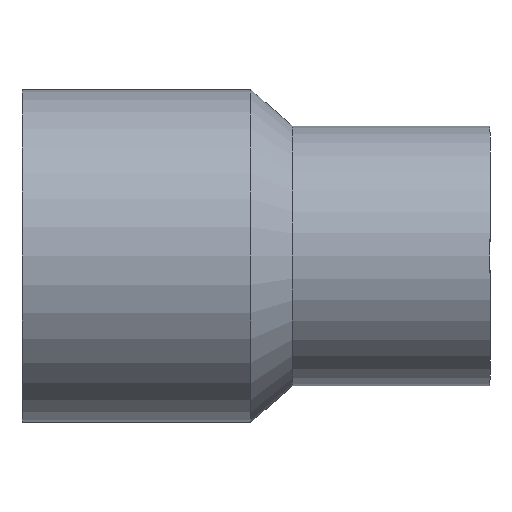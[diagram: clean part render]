
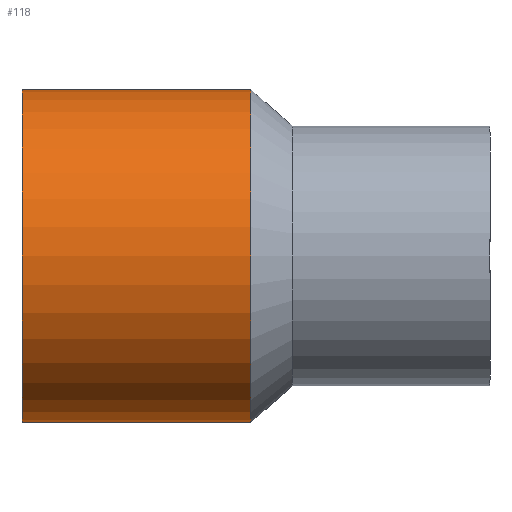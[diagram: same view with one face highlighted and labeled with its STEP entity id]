
A CAD part, front view. The second image highlights one B-rep face of the part: STEP entity #118.
In plain terms, the highlighted cylindrical face has radius 16 mm (diameter 32 mm), a full revolution.
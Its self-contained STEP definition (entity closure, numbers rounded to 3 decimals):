
#18=CYLINDRICAL_SURFACE('',#134,16.);
#25=FACE_BOUND('',#49,.T.);
#35=FACE_OUTER_BOUND('',#48,.T.);
#48=EDGE_LOOP('',(#98));
#49=EDGE_LOOP('',(#99));
#65=CIRCLE('',#133,16.);
#66=CIRCLE('',#135,16.);
#75=VERTEX_POINT('',#199);
#76=VERTEX_POINT('',#202);
#85=EDGE_CURVE('',#75,#75,#65,.T.);
#86=EDGE_CURVE('',#76,#76,#66,.T.);
#98=ORIENTED_EDGE('',*,*,#85,.T.);
#99=ORIENTED_EDGE('',*,*,#86,.F.);
#118=ADVANCED_FACE('',(#35,#25),#18,.T.);
#133=AXIS2_PLACEMENT_3D('',#200,#161,#162);
#134=AXIS2_PLACEMENT_3D('',#201,#163,#164);
#135=AXIS2_PLACEMENT_3D('',#203,#165,#166);
#161=DIRECTION('center_axis',(-1.,0.,0.));
#162=DIRECTION('ref_axis',(0.,0.,1.));
#163=DIRECTION('center_axis',(-1.,0.,0.));
#164=DIRECTION('ref_axis',(0.,-1.,0.));
#165=DIRECTION('center_axis',(-1.,0.,0.));
#166=DIRECTION('ref_axis',(0.,0.,1.));
#199=CARTESIAN_POINT('',(-0.5,-16.,0.));
#200=CARTESIAN_POINT('Origin',(-0.5,0.,
0.));
#201=CARTESIAN_POINT('Origin',(-11.5,0.,0.));
#202=CARTESIAN_POINT('',(-22.5,-16.,0.));
#203=CARTESIAN_POINT('Origin',(-22.5,0.,0.));
